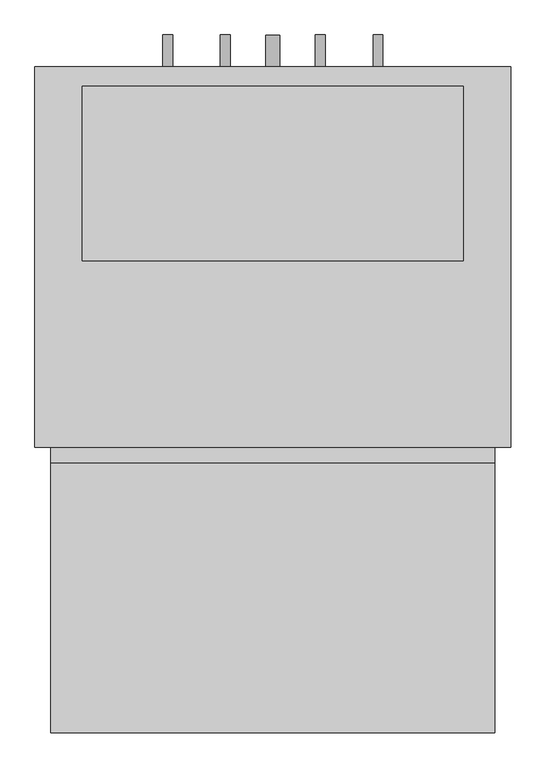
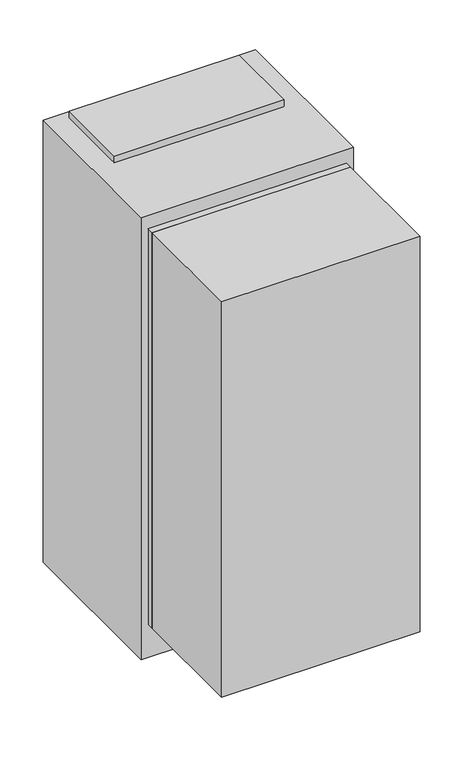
"""IFC4 building model written with IfcOpenShell, lengths in millimetres: proxy geometry, Concealed_Modular_Fan_Coil_Unit_-_42SMA_-_CARRIER_-_4-Pipe_-_NoRisers_2022 : Size 20 - 277v/60Hz/1Ph - 4/1 Coil."""

from ifc_helpers import new_model, si_unit, point, frame, frame_2d, origin, origin_with_axes, place, context, project, spatial, polyline, circle_curve, trimmed, segment, composite_curve, outline, extrude, source, transform, mapped, element, save


def mechanical_equipment_ecb4c6be(model_context):
    return source(origin(), model_context, "Body", "SweptSolid", [
        extrude(outline(polyline([(889.0, -822.325), (177.8, -822.325), (177.8, -390.525), (889.0, -390.525), (889.0, -822.325)])), frame((0.0, 0.0, 127.0), z_axis=(0.0, 0.0, 1.0), x_axis=(1.0, 0.0, 0.0)), (0.0, 0.0, 1.0), 1498.6),
        extrude(outline(composite_curve([segment(trimmed(circle_curve(frame_2d((990.6, 701.675)), 7.9375), [point((990.6, 693.7375))], [point((990.6, 709.6125))], False, "CARTESIAN"), True, "CONTINUOUS"), segment(trimmed(circle_curve(frame_2d((990.6, 701.675)), 7.9375), [point((990.6, 709.6125))], [point((990.6, 693.7375))], False, "CARTESIAN"), True, "CONTINUOUS")], self_intersect=False)), frame((0.0, 244.475, 0.0), z_axis=(0.0, 1.0, 0.0), x_axis=(0.0, 0.0, 1.0)), (0.0, 0.0, 1.0), 50.8),
        extrude(outline(composite_curve([segment(trimmed(circle_curve(frame_2d((990.6, 609.6)), 7.9375), [point((990.6, 601.6625))], [point((990.6, 617.5375))], False, "CARTESIAN"), True, "CONTINUOUS"), segment(trimmed(circle_curve(frame_2d((990.6, 609.6)), 7.9375), [point((990.6, 617.5375))], [point((990.6, 601.6625))], False, "CARTESIAN"), True, "CONTINUOUS")], self_intersect=False)), frame((0.0, 244.475, 0.0), z_axis=(0.0, 1.0, 0.0), x_axis=(0.0, 0.0, 1.0)), (0.0, 0.0, 1.0), 50.8),
        extrude(outline(composite_curve([segment(trimmed(circle_curve(frame_2d((990.6, 457.2)), 7.9375), [point((990.6, 449.2625))], [point((990.6, 465.1375))], False, "CARTESIAN"), True, "CONTINUOUS"), segment(trimmed(circle_curve(frame_2d((990.6, 457.2)), 7.9375), [point((990.6, 465.1375))], [point((990.6, 449.2625))], False, "CARTESIAN"), True, "CONTINUOUS")], self_intersect=False)), frame((0.0, 244.475, 0.0), z_axis=(0.0, 1.0, 0.0), x_axis=(0.0, 0.0, 1.0)), (0.0, 0.0, 1.0), 50.8),
        extrude(outline(composite_curve([segment(trimmed(circle_curve(frame_2d((990.6, 365.125)), 7.9375), [point((990.6, 357.1875))], [point((990.6, 373.0625))], False, "CARTESIAN"), True, "CONTINUOUS"), segment(trimmed(circle_curve(frame_2d((990.6, 365.125)), 7.9375), [point((990.6, 373.0625))], [point((990.6, 357.1875))], False, "CARTESIAN"), True, "CONTINUOUS")], self_intersect=False)), frame((0.0, 244.475, 0.0), z_axis=(0.0, 1.0, 0.0), x_axis=(0.0, 0.0, 1.0)), (0.0, 0.0, 1.0), 50.8),
        extrude(outline(composite_curve([segment(trimmed(circle_curve(frame_2d((76.2, 533.4)), 11.1125), [point((76.2, 522.2875))], [point((76.2, 544.5125))], False, "CARTESIAN"), True, "CONTINUOUS"), segment(trimmed(circle_curve(frame_2d((76.2, 533.4)), 11.1125), [point((76.2, 544.5125))], [point((76.2, 522.2875))], False, "CARTESIAN"), True, "CONTINUOUS")], self_intersect=False)), frame((0.0, 244.475, 0.0), z_axis=(0.0, 1.0, 0.0), x_axis=(0.0, 0.0, 1.0)), (0.0, 0.0, 1.0), 50.8),
        extrude(outline(polyline([(838.2, 212.725), (838.2, -66.675), (228.6, -66.675), (228.6, 212.725), (838.2, 212.725)])), frame((0.0, 0.0, 1676.4), z_axis=(0.0, 0.0, 1.0), x_axis=(1.0, 0.0, 0.0)), (0.0, 0.0, 1.0), 25.4),
        extrude(outline(polyline([(889.0, -390.525), (177.8, -390.525), (177.8, -365.125), (889.0, -365.125), (889.0, -390.525)])), frame((0.0, 0.0, 127.0), z_axis=(0.0, 0.0, 1.0), x_axis=(1.0, 0.0, 0.0)), (0.0, 0.0, 1.0), 1498.6),
        extrude(outline(polyline([(914.4, 244.475), (914.4, -365.125), (152.4, -365.125), (152.4, 244.475), (914.4, 244.475)])), origin_with_axes(), (0.0, 0.0, 1.0), 1676.4),
    ])


if __name__ == "__main__":
    model = new_model("IFC4")
    model_context = context("Model", 3, world=origin())
    ifc_project = project(units=[si_unit("LENGTHUNIT", "METRE", prefix="MILLI")], contexts=[model_context])
    site = spatial("IfcSite", under=ifc_project)
    building = spatial("IfcBuilding", under=site)
    placement = place(None, origin())
    mechanical_equipment_shape = mechanical_equipment_ecb4c6be(model_context)
    element("IfcBuildingElementProxy", 1, Name="Concealed_Modular_Fan_Coil_Unit_-_42SMA_-_CARRIER_-_4-Pipe_-_NoRisers_2022 : Size 20 - 277v/60Hz/1Ph - 4/1 Coil", ObjectType="Concealed_Modular_Fan_Coil_Unit_-_42SMA_-_CARRIER_-_4-Pipe_-_NoRisers_2022 : Size 20 - 277v/60Hz/1Ph - 4/1 Coil", at=placement, inside=building, context=model_context, shape_type="MappedRepresentation", body=[
        mapped(mechanical_equipment_shape, transform((0.0, 0.0, 0.0), x_axis=(1.0, 0.0, 0.0), y_axis=(0.0, 1.0, 0.0), z_axis=(0.0, 0.0, 1.0))),
    ])
    save(model, "model.ifc")
